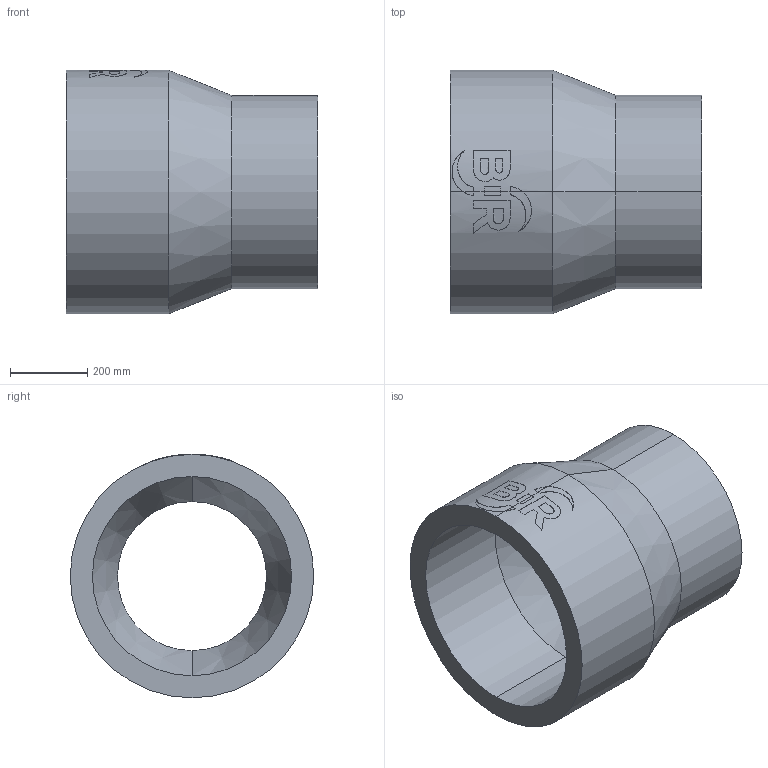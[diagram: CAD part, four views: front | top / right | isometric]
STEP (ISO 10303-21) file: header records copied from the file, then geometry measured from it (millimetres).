
FILE_DESCRIPTION (( 'STEP AP214' ), '1' );
FILE_NAME ('2323292715.STEP', '2018-07-20T10:13:53', ( '' ), ( '' ), 'SwSTEP 2.0', 'SolidWorks 2017', '' );
FILE_SCHEMA (( 'AUTOMOTIVE_DESIGN' ));
Length unit declared in the file: millimetre
Products named in the file (1): 2323292715
Bounding box: 650 x 630 x 630.46 mm (x, y, z)
Volume: 60833620.2 mm3; surface area: 2310151.8 mm2
Topology: 1 solids, 1 shells, 63 faces, 160 edges, 104 vertices
Faces by surface type: cylinder 31, plane 28, cone 4
Entity records: 3576 total; most frequent: CARTESIAN_POINT 1367, ORIENTED_EDGE 320, DIRECTION 296, EDGE_CURVE 160, AXIS2_PLACEMENT_3D 112, VERTEX_POINT 104, LINE 72, VECTOR 72
